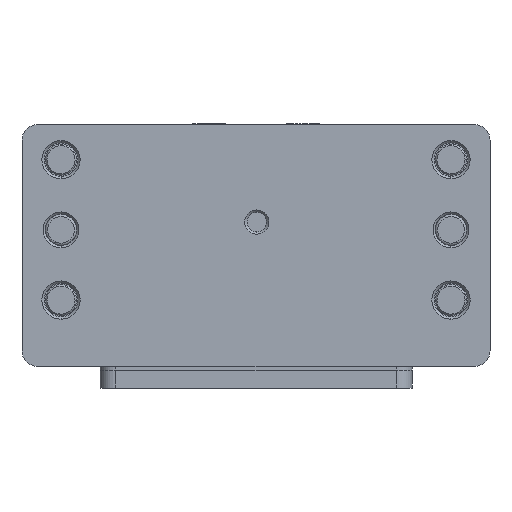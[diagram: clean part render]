
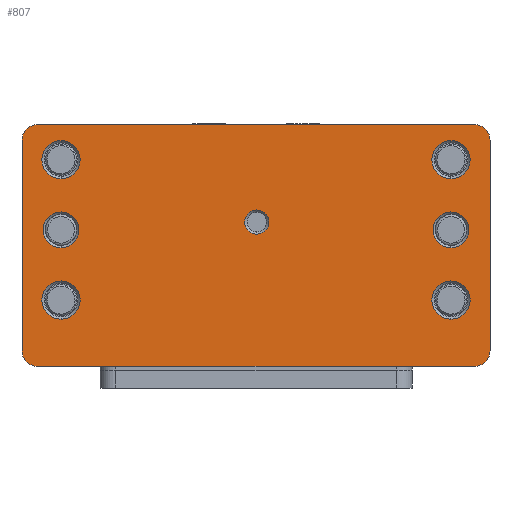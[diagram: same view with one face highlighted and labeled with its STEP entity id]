
A CAD part, front view. The second image highlights one B-rep face of the part: STEP entity #807.
In plain terms, the highlighted planar face has unit normal (0, -1, 0).
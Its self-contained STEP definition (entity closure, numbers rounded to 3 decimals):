
#89=FACE_BOUND('',#2900,.T.);
#90=FACE_BOUND('',#2901,.T.);
#91=FACE_BOUND('',#2902,.T.);
#92=FACE_BOUND('',#2903,.T.);
#93=FACE_BOUND('',#2904,.T.);
#94=FACE_BOUND('',#2905,.T.);
#95=FACE_BOUND('',#2906,.T.);
#807=ADVANCED_FACE('',(#89,#90,#91,#92,#93,#94,#95,#2048),#1580,.F.);
#1580=PLANE('',#14335);
#2048=FACE_OUTER_BOUND('',#2907,.T.);
#2900=EDGE_LOOP('',(#5140,#5141));
#2901=EDGE_LOOP('',(#5142,#5143));
#2902=EDGE_LOOP('',(#5144,#5145));
#2903=EDGE_LOOP('',(#5146,#5147));
#2904=EDGE_LOOP('',(#5148,#5149));
#2905=EDGE_LOOP('',(#5150,#5151));
#2906=EDGE_LOOP('',(#5152,#5153));
#2907=EDGE_LOOP('',(#5154,#5155,#5156,#5157,#5158,#5159,#5160,#5161));
#3835=CIRCLE('',#14241,2.45);
#3837=CIRCLE('',#14244,2.3);
#3840=CIRCLE('',#14248,2.45);
#3842=CIRCLE('',#14251,2.45);
#3844=CIRCLE('',#14254,2.3);
#3847=CIRCLE('',#14258,2.45);
#3857=CIRCLE('',#14273,1.55);
#3888=CIRCLE('',#14324,2.45);
#3889=CIRCLE('',#14325,2.3);
#3890=CIRCLE('',#14326,2.45);
#3891=CIRCLE('',#14327,2.45);
#3892=CIRCLE('',#14328,2.3);
#3893=CIRCLE('',#14329,2.45);
#3894=CIRCLE('',#14330,1.55);
#3895=CIRCLE('',#14331,2.);
#3896=CIRCLE('',#14332,2.);
#3897=CIRCLE('',#14333,2.);
#3898=CIRCLE('',#14334,2.);
#5140=ORIENTED_EDGE('',*,*,#10205,.T.);
#5141=ORIENTED_EDGE('',*,*,#10338,.T.);
#5142=ORIENTED_EDGE('',*,*,#10200,.T.);
#5143=ORIENTED_EDGE('',*,*,#10339,.T.);
#5144=ORIENTED_EDGE('',*,*,#10196,.T.);
#5145=ORIENTED_EDGE('',*,*,#10340,.T.);
#5146=ORIENTED_EDGE('',*,*,#10192,.T.);
#5147=ORIENTED_EDGE('',*,*,#10341,.T.);
#5148=ORIENTED_EDGE('',*,*,#10187,.T.);
#5149=ORIENTED_EDGE('',*,*,#10342,.T.);
#5150=ORIENTED_EDGE('',*,*,#10183,.T.);
#5151=ORIENTED_EDGE('',*,*,#10343,.T.);
#5152=ORIENTED_EDGE('',*,*,#10225,.T.);
#5153=ORIENTED_EDGE('',*,*,#10344,.T.);
#5154=ORIENTED_EDGE('',*,*,#10291,.T.);
#5155=ORIENTED_EDGE('',*,*,#10345,.T.);
#5156=ORIENTED_EDGE('',*,*,#10346,.F.);
#5157=ORIENTED_EDGE('',*,*,#10347,.T.);
#5158=ORIENTED_EDGE('',*,*,#10324,.F.);
#5159=ORIENTED_EDGE('',*,*,#10348,.T.);
#5160=ORIENTED_EDGE('',*,*,#10334,.T.);
#5161=ORIENTED_EDGE('',*,*,#10349,.T.);
#8860=VERTEX_POINT('',#21606);
#8861=VERTEX_POINT('',#21608);
#8864=VERTEX_POINT('',#21615);
#8865=VERTEX_POINT('',#21617);
#8869=VERTEX_POINT('',#21626);
#8870=VERTEX_POINT('',#21628);
#8873=VERTEX_POINT('',#21635);
#8874=VERTEX_POINT('',#21637);
#8877=VERTEX_POINT('',#21644);
#8878=VERTEX_POINT('',#21646);
#8882=VERTEX_POINT('',#21655);
#8883=VERTEX_POINT('',#21657);
#8902=VERTEX_POINT('',#21700);
#8903=VERTEX_POINT('',#21702);
#8955=VERTEX_POINT('',#21843);
#8956=VERTEX_POINT('',#21845);
#8982=VERTEX_POINT('',#21906);
#8983=VERTEX_POINT('',#21908);
#8990=VERTEX_POINT('',#21925);
#8991=VERTEX_POINT('',#21927);
#8993=VERTEX_POINT('',#21941);
#8994=VERTEX_POINT('',#21943);
#10183=EDGE_CURVE('',#8861,#8860,#3835,.T.);
#10187=EDGE_CURVE('',#8865,#8864,#3837,.T.);
#10192=EDGE_CURVE('',#8870,#8869,#3840,.T.);
#10196=EDGE_CURVE('',#8874,#8873,#3842,.T.);
#10200=EDGE_CURVE('',#8878,#8877,#3844,.T.);
#10205=EDGE_CURVE('',#8883,#8882,#3847,.T.);
#10225=EDGE_CURVE('',#8903,#8902,#3857,.T.);
#10291=EDGE_CURVE('',#8956,#8955,#12071,.T.);
#10324=EDGE_CURVE('',#8982,#8983,#12096,.T.);
#10334=EDGE_CURVE('',#8991,#8990,#12104,.T.);
#10338=EDGE_CURVE('',#8882,#8883,#3888,.T.);
#10339=EDGE_CURVE('',#8877,#8878,#3889,.T.);
#10340=EDGE_CURVE('',#8873,#8874,#3890,.T.);
#10341=EDGE_CURVE('',#8869,#8870,#3891,.T.);
#10342=EDGE_CURVE('',#8864,#8865,#3892,.T.);
#10343=EDGE_CURVE('',#8860,#8861,#3893,.T.);
#10344=EDGE_CURVE('',#8902,#8903,#3894,.T.);
#10345=EDGE_CURVE('',#8955,#8993,#3895,.T.);
#10346=EDGE_CURVE('',#8994,#8993,#12108,.T.);
#10347=EDGE_CURVE('',#8994,#8983,#3896,.T.);
#10348=EDGE_CURVE('',#8982,#8991,#3897,.T.);
#10349=EDGE_CURVE('',#8990,#8956,#3898,.T.);
#12071=LINE('',#21844,#13143);
#12096=LINE('',#21907,#13168);
#12104=LINE('',#21926,#13176);
#12108=LINE('',#21942,#13180);
#13143=VECTOR('',#16505,1.);
#13168=VECTOR('',#16552,1.);
#13176=VECTOR('',#16566,1.);
#13180=VECTOR('',#16588,1.);
#14241=AXIS2_PLACEMENT_3D('',#21607,#16307,#16308);
#14244=AXIS2_PLACEMENT_3D('',#21616,#16315,#16316);
#14248=AXIS2_PLACEMENT_3D('',#21627,#16325,#16326);
#14251=AXIS2_PLACEMENT_3D('',#21636,#16333,#16334);
#14254=AXIS2_PLACEMENT_3D('',#21645,#16341,#16342);
#14258=AXIS2_PLACEMENT_3D('',#21656,#16351,#16352);
#14273=AXIS2_PLACEMENT_3D('',#21701,#16391,#16392);
#14324=AXIS2_PLACEMENT_3D('',#21933,#16572,#16573);
#14325=AXIS2_PLACEMENT_3D('',#21934,#16574,#16575);
#14326=AXIS2_PLACEMENT_3D('',#21935,#16576,#16577);
#14327=AXIS2_PLACEMENT_3D('',#21936,#16578,#16579);
#14328=AXIS2_PLACEMENT_3D('',#21937,#16580,#16581);
#14329=AXIS2_PLACEMENT_3D('',#21938,#16582,#16583);
#14330=AXIS2_PLACEMENT_3D('',#21939,#16584,#16585);
#14331=AXIS2_PLACEMENT_3D('',#21940,#16586,#16587);
#14332=AXIS2_PLACEMENT_3D('',#21944,#16589,#16590);
#14333=AXIS2_PLACEMENT_3D('',#21945,#16591,#16592);
#14334=AXIS2_PLACEMENT_3D('',#21946,#16593,#16594);
#14335=AXIS2_PLACEMENT_3D('',#21947,#16595,#16596);
#16307=DIRECTION('',(0.,1.,0.));
#16308=DIRECTION('',(0.,0.,-1.));
#16315=DIRECTION('',(0.,1.,0.));
#16316=DIRECTION('',(0.,0.,-1.));
#16325=DIRECTION('',(0.,1.,0.));
#16326=DIRECTION('',(0.,0.,-1.));
#16333=DIRECTION('',(0.,1.,0.));
#16334=DIRECTION('',(0.,0.,-1.));
#16341=DIRECTION('',(0.,1.,0.));
#16342=DIRECTION('',(0.,0.,-1.));
#16351=DIRECTION('',(0.,1.,0.));
#16352=DIRECTION('',(0.,0.,-1.));
#16391=DIRECTION('',(0.,1.,0.));
#16392=DIRECTION('',(0.,0.,-1.));
#16505=DIRECTION('',(-1.,0.,0.));
#16552=DIRECTION('',(-1.,0.,0.));
#16566=DIRECTION('',(0.,0.,1.));
#16572=DIRECTION('',(0.,1.,0.));
#16573=DIRECTION('',(0.,0.,-1.));
#16574=DIRECTION('',(0.,1.,0.));
#16575=DIRECTION('',(0.,0.,-1.));
#16576=DIRECTION('',(0.,1.,0.));
#16577=DIRECTION('',(0.,0.,-1.));
#16578=DIRECTION('',(0.,1.,0.));
#16579=DIRECTION('',(0.,0.,-1.));
#16580=DIRECTION('',(0.,1.,0.));
#16581=DIRECTION('',(0.,0.,-1.));
#16582=DIRECTION('',(0.,1.,0.));
#16583=DIRECTION('',(0.,0.,-1.));
#16584=DIRECTION('',(0.,1.,0.));
#16585=DIRECTION('',(0.,0.,-1.));
#16586=DIRECTION('',(0.,-1.,0.));
#16587=DIRECTION('',(0.,0.,-1.));
#16588=DIRECTION('',(0.,0.,1.));
#16589=DIRECTION('',(0.,-1.,0.));
#16590=DIRECTION('',(0.,0.,-1.));
#16591=DIRECTION('',(0.,-1.,0.));
#16592=DIRECTION('',(0.,0.,-1.));
#16593=DIRECTION('',(0.,-1.,0.));
#16594=DIRECTION('',(0.,0.,-1.));
#16595=DIRECTION('',(0.,1.,0.));
#16596=DIRECTION('',(0.,0.,-1.));
#21606=CARTESIAN_POINT('',(-25.,-19.4,-6.95));
#21607=CARTESIAN_POINT('',(-25.,-19.4,-4.5));
#21608=CARTESIAN_POINT('',(-25.,-19.4,-2.05));
#21615=CARTESIAN_POINT('',(-25.,-19.4,-15.8));
#21616=CARTESIAN_POINT('',(-25.,-19.4,-13.5));
#21617=CARTESIAN_POINT('',(-25.,-19.4,-11.2));
#21626=CARTESIAN_POINT('',(-25.,-19.4,-24.95));
#21627=CARTESIAN_POINT('',(-25.,-19.4,-22.5));
#21628=CARTESIAN_POINT('',(-25.,-19.4,-20.05));
#21635=CARTESIAN_POINT('',(25.,-19.4,-24.95));
#21636=CARTESIAN_POINT('',(25.,-19.4,-22.5));
#21637=CARTESIAN_POINT('',(25.,-19.4,-20.05));
#21644=CARTESIAN_POINT('',(25.,-19.4,-15.8));
#21645=CARTESIAN_POINT('',(25.,-19.4,-13.5));
#21646=CARTESIAN_POINT('',(25.,-19.4,-11.2));
#21655=CARTESIAN_POINT('',(25.,-19.4,-6.95));
#21656=CARTESIAN_POINT('',(25.,-19.4,-4.5));
#21657=CARTESIAN_POINT('',(25.,-19.4,-2.05));
#21700=CARTESIAN_POINT('',(0.1,-19.4,-14.05));
#21701=CARTESIAN_POINT('',(0.1,-19.4,-12.5));
#21702=CARTESIAN_POINT('',(0.1,-19.4,-10.95));
#21843=CARTESIAN_POINT('',(-28.,-19.4,0.));
#21844=CARTESIAN_POINT('',(30.,-19.4,0.));
#21845=CARTESIAN_POINT('',(28.,-19.4,0.));
#21906=CARTESIAN_POINT('',(28.,-19.4,-31.));
#21907=CARTESIAN_POINT('',(30.,-19.4,-31.));
#21908=CARTESIAN_POINT('',(-28.,-19.4,-31.));
#21925=CARTESIAN_POINT('',(30.,-19.4,-2.));
#21926=CARTESIAN_POINT('',(30.,-19.4,-33.5));
#21927=CARTESIAN_POINT('',(30.,-19.4,-29.));
#21933=CARTESIAN_POINT('',(25.,-19.4,-4.5));
#21934=CARTESIAN_POINT('',(25.,-19.4,-13.5));
#21935=CARTESIAN_POINT('',(25.,-19.4,-22.5));
#21936=CARTESIAN_POINT('',(-25.,-19.4,-22.5));
#21937=CARTESIAN_POINT('',(-25.,-19.4,-13.5));
#21938=CARTESIAN_POINT('',(-25.,-19.4,-4.5));
#21939=CARTESIAN_POINT('',(0.1,-19.4,-12.5));
#21940=CARTESIAN_POINT('',(-28.,-19.4,-2.));
#21941=CARTESIAN_POINT('',(-30.,-19.4,-2.));
#21942=CARTESIAN_POINT('',(-30.,-19.4,-33.5));
#21943=CARTESIAN_POINT('',(-30.,-19.4,-29.));
#21944=CARTESIAN_POINT('',(-28.,-19.4,-29.));
#21945=CARTESIAN_POINT('',(28.,-19.4,-29.));
#21946=CARTESIAN_POINT('',(28.,-19.4,-2.));
#21947=CARTESIAN_POINT('',(30.,-19.4,-33.5));
